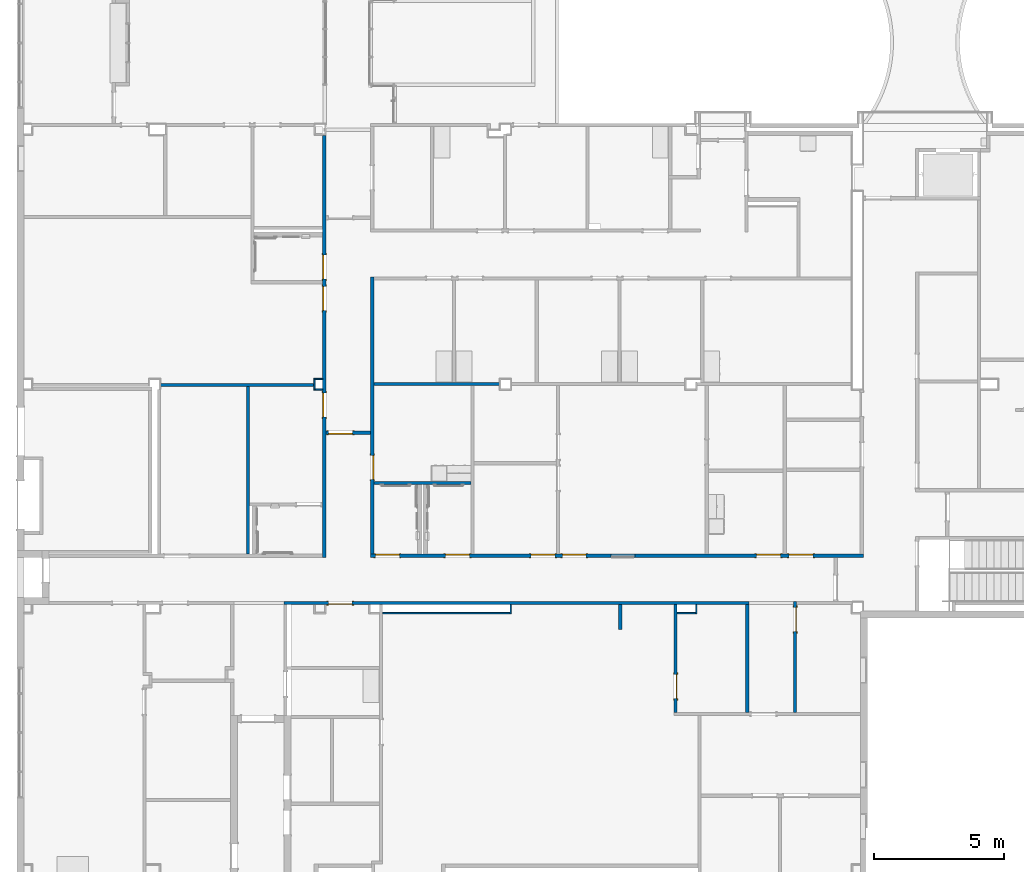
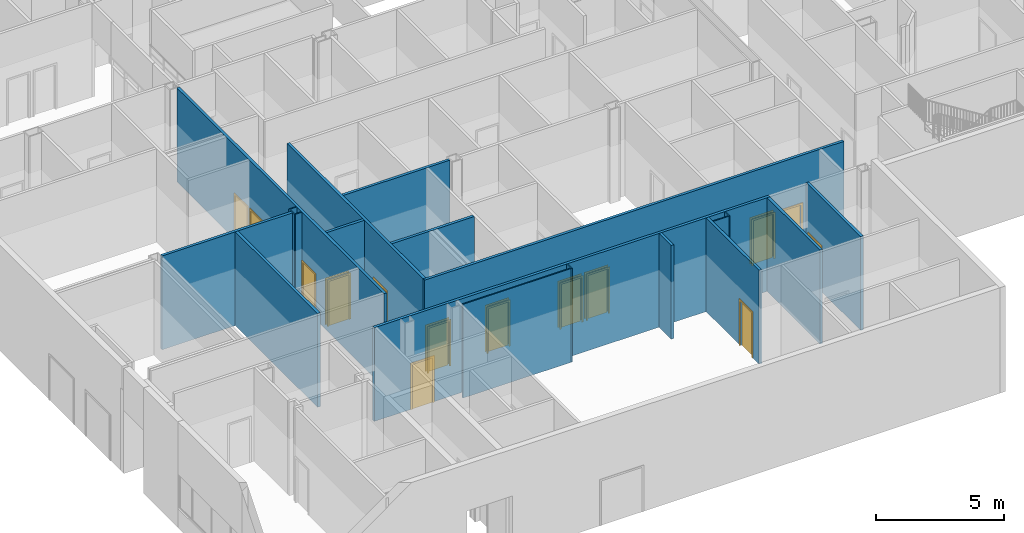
# One storey, part 21 of 87: 20 walls, 14 doors, 15 openings.
"""IFC2X3 building model written with IfcOpenShell, lengths in metres."""

from ifc_helpers import new_model, entity, si_unit, converted_unit, frame, frame_2d, origin, origin_2d_with_axis, place, context, project, spatial, polyline, rectangle, outline, extrude, source, transform, mapped, material, layer, layer_set, layer_usage, type_object, type_shapes, element, fill, save


model = new_model("IFC2X3")

# Units and contexts
model_context = context("Model", 3, precision=1e-09, world=origin())
plan_context = context("Plan", 3, precision=1e-09, world=origin())
ifc_project = project(units=[si_unit("LENGTHUNIT", "METRE"), si_unit("AREAUNIT", "SQUARE_METRE"), si_unit("VOLUMEUNIT", "CUBIC_METRE"), converted_unit("PLANEANGLEUNIT", "DEGREE", entity("IfcRatioMeasure", 0.01745329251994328), si_unit("PLANEANGLEUNIT", "RADIAN"), dimensions=[0, 0, 0, 0, 0, 0, 0]), si_unit("TIMEUNIT", "SECOND")], contexts=[model_context, plan_context])

# Site, building, storey
site_placement = place(None, origin())
site = spatial("IfcSite", under=ifc_project, at=site_placement, Name="Default", CompositionType="ELEMENT")
building_placement = place(site_placement, origin())
building = spatial("IfcBuilding", under=site, at=building_placement, CompositionType="ELEMENT")
storey_placement = place(building_placement, origin())
storey = spatial("IfcBuildingStorey", under=building, at=storey_placement, Name="First Floor", CompositionType="ELEMENT", Elevation=-3.531500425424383e-13)

# Wall, openings, doors
ifc_material_1 = material(Name="Plasterboard")
ifc_layer_1 = layer(ifc_material_1, 0.016)
ifc_material_2 = material(Name="Metal - Stud Layer")
ifc_layer_2 = layer(ifc_material_2, 0.092)
ifc_layer_3 = layer(ifc_material_1, 0.016)
ifc_layer_set_1 = layer_set([ifc_layer_1, ifc_layer_2, ifc_layer_3], Name="Basic Wall:Interior - Partition (92mm Stud)")
ifc_layer_usage_1 = layer_usage(ifc_layer_set_1, "AXIS2", "NEGATIVE", 0.062)
wall_1_placement = place(storey_placement, frame((-40.49200000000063, 28.14999999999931, 0.0), z_axis=(0.0, 0.0, 1.0), x_axis=(0.0, -1.0, 0.0)))
wall_1 = element("IfcWallStandardCase", 1, at=wall_1_placement, inside=storey, material=ifc_layer_usage_1, Name="Basic Wall:Interior - Partition (92mm Stud)", ObjectType="Basic Wall:Interior - Partition (92mm Stud)", context=model_context, shape_type="SweptSolid", body=[
    extrude(rectangle(XDim=16.1700000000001, YDim=0.1240000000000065, at=frame_2d((8.085000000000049, 0.0), x_axis=(-1.0, 0.0))), origin(), (0.0, 0.0, 1.0), 4.468000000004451),
])
opening_1_placement = place(wall_1_placement, frame((5.505999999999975, 0.06199999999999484, 0.0)))
opening_1 = element("IfcOpeningElement", 2, at=opening_1_placement, cuts=wall_1, Name="M_Single-Flush:0915 x 2134mm:0915 x 2134mm:1", ObjectType="Opening", context=model_context, shape_type="SweptSolid", body=[
    extrude(rectangle(XDim=0.9149999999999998, YDim=2.134, at=frame_2d((1.067, 0.4574999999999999), x_axis=(0.0, -1.0))), frame((0.0, 0.0, 0.0), z_axis=(0.0, -1.0, 0.0), x_axis=(0.0, 0.0, 1.0)), (0.0, 0.0, 1.0), 0.124),
])
opening_2_placement = place(wall_1_placement, frame((6.704999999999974, 0.06199999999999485, 0.0)))
opening_2 = element("IfcOpeningElement", 3, at=opening_2_placement, cuts=wall_1, Name="M_Single-Flush:0915 x 2134mm:0915 x 2134mm:1", ObjectType="Opening", context=model_context, shape_type="SweptSolid", body=[
    extrude(rectangle(XDim=0.9149999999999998, YDim=2.134, at=frame_2d((1.067, 0.4575), x_axis=(0.0, 1.0))), frame((0.0, 0.0, 0.0), z_axis=(0.0, -1.0, 0.0), x_axis=(0.0, 0.0, 1.0)), (0.0, 0.0, 1.0), 0.124),
])
opening_3_placement = place(wall_1_placement, frame((10.78499999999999, 0.06199999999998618, 0.0)))
opening_3 = element("IfcOpeningElement", 4, at=opening_3_placement, cuts=wall_1, Name="M_Single-Flush:0915 x 2134mm:0915 x 2134mm:1", ObjectType="Opening", context=model_context, shape_type="SweptSolid", body=[
    extrude(rectangle(XDim=0.9149999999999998, YDim=2.134, at=frame_2d((1.067, 0.4575), x_axis=(0.0, 1.0))), frame((0.0, 0.0, 0.0), z_axis=(0.0, -1.0, 0.0), x_axis=(0.0, 0.0, 1.0)), (0.0, 0.0, 1.0), 0.124),
])
door_style_1 = type_object("IfcDoorStyle", Name="0915 x 2134mm", ConstructionType="NOTDEFINED", OperationType="SINGLE_SWING_RIGHT", ParameterTakesPrecedence=False, Sizeable=False)
shared_shape_1 = source(origin(), model_context, "Body", "SweptSolid", [
    extrude(outline(polyline([(-0.5335, -1.123999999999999), (0.5334999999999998, -1.123999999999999), (0.5334999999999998, 1.086), (0.4574999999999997, 1.086), (0.4574999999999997, -1.048000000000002), (-0.4574999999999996, -1.048000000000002), (-0.4574999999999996, 1.086), (-0.5335, 1.086), (-0.5335, -1.123999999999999)])), frame((0.4575000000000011, 0.1239999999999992, 1.086), z_axis=(0.0, 1.0, 0.0), x_axis=(1.0, 0.0, 0.0)), (0.0, 0.0, 1.0), 0.02499999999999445),
    extrude(outline(polyline([(-1.123999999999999, -0.5334999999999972), (1.085999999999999, -0.5334999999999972), (1.085999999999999, -0.4575000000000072), (-1.048, -0.4575000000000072), (-1.048, 0.4575000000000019), (1.085999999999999, 0.4575000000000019), (1.085999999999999, 0.5335000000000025), (-1.123999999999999, 0.5335000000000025), (-1.123999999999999, -0.5334999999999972)])), frame((0.4575000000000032, -0.02500000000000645, 1.085999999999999), z_axis=(0.0, 1.0, 0.0), x_axis=(0.0, 0.0, -1.0)), (0.0, 0.0, 1.0), 0.02500000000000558),
    extrude(rectangle(XDim=0.051, YDim=0.9149999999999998, at=origin_2d_with_axis()), frame((0.4575000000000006, 0.09849999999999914, 0.0), z_axis=(0.0, 0.0, 1.0), x_axis=(0.0, 1.0, 0.0)), (0.0, 0.0, 1.0), 2.133999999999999),
])
type_shapes(door_style_1, [shared_shape_1])
door_1_placement = place(opening_2_placement, frame((0.0, 0.0, 0.0), z_axis=(0.0, 0.0, 1.0), x_axis=(-1.0, 0.0, 0.0)))
door_1 = element("IfcDoor", 5, at=door_1_placement, inside=storey, type_object=door_style_1, Name="M_Single-Flush:0915 x 2134mm:0915 x 2134mm", ObjectType="0915 x 2134mm", OverallHeight=2.134, OverallWidth=0.9149999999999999, context=model_context, shape_type="MappedRepresentation", body=[
    mapped(shared_shape_1, transform((0.0, 0.0, 0.0), scale=1.0)),
])
fill(opening_2, door_1)
door_2_placement = place(opening_3_placement, frame((0.0, 0.0, 0.0), z_axis=(0.0, 0.0, 1.0), x_axis=(-1.0, 0.0, 0.0)))
door_2 = element("IfcDoor", 6, at=door_2_placement, inside=storey, type_object=door_style_1, Name="M_Single-Flush:0915 x 2134mm:0915 x 2134mm", ObjectType="0915 x 2134mm", OverallHeight=2.134, OverallWidth=0.9149999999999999, context=model_context, shape_type="MappedRepresentation", body=[
    mapped(shared_shape_1, transform((0.0, 0.0, 0.0), scale=1.0)),
])
fill(opening_3, door_2)
door_style_2 = type_object("IfcDoorStyle", Name="0915 x 2134mm", ConstructionType="NOTDEFINED", OperationType="SINGLE_SWING_LEFT", ParameterTakesPrecedence=False, Sizeable=False)
shared_shape_2 = source(origin(), model_context, "Body", "SweptSolid", [
    extrude(outline(polyline([(-0.5335, -1.123999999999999), (0.5334999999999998, -1.123999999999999), (0.5334999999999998, 1.086), (0.4574999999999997, 1.086), (0.4574999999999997, -1.048000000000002), (-0.4574999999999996, -1.048000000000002), (-0.4574999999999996, 1.086), (-0.5335, 1.086), (-0.5335, -1.123999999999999)])), frame((0.4575000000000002, 0.1489999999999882, 1.086), z_axis=(0.0, -1.0, 0.0), x_axis=(-1.0, 0.0, 0.0)), (0.0, 0.0, 1.0), 0.02499999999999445),
    extrude(outline(polyline([(-1.123999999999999, -0.5334999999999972), (1.085999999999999, -0.5334999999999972), (1.085999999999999, -0.4575000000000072), (-1.048, -0.4575000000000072), (-1.048, 0.4575000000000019), (1.085999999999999, 0.4575000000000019), (1.085999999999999, 0.5335000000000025), (-1.123999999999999, 0.5335000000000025), (-1.123999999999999, -0.5334999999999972)])), frame((0.4574999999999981, 0.0, 1.085999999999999), z_axis=(0.0, -1.0, 0.0), x_axis=(0.0, 0.0, -1.0)), (0.0, 0.0, 1.0), 0.02500000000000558),
    extrude(rectangle(XDim=0.9149999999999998, YDim=0.051, at=origin_2d_with_axis()), frame((0.4575000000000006, 0.09849999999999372, 0.0)), (0.0, 0.0, 1.0), 2.133999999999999),
])
type_shapes(door_style_2, [shared_shape_2])
door_3_placement = place(opening_1_placement, frame((0.0, 0.0, 0.0), z_axis=(0.0, 0.0, 1.0), x_axis=(-1.0, 0.0, 0.0)))
door_3 = element("IfcDoor", 7, at=door_3_placement, inside=storey, type_object=door_style_2, Name="M_Single-Flush:0915 x 2134mm:0915 x 2134mm", ObjectType="0915 x 2134mm", OverallHeight=2.134, OverallWidth=0.9149999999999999, context=model_context, shape_type="MappedRepresentation", body=[
    mapped(shared_shape_2, transform((0.0, 0.0, 0.0), scale=1.0)),
])
fill(opening_1, door_3)

# Walls
ifc_layer_usage_2 = layer_usage(ifc_layer_set_1, "AXIS2", "NEGATIVE", 0.062)
wall_2_placement = place(storey_placement, frame((-46.77000000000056, 18.58799999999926, 0.0)))
element("IfcWallStandardCase", 8, at=wall_2_placement, inside=storey, material=ifc_layer_usage_2, Name="Basic Wall:Interior - Partition (92mm Stud)", ObjectType="Basic Wall:Interior - Partition (92mm Stud)", context=model_context, shape_type="SweptSolid", body=[
    extrude(rectangle(XDim=5.879999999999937, YDim=0.1240000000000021, at=frame_2d((2.939999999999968, 0.0), x_axis=(-1.0, 0.0))), origin(), (0.0, 0.0, 1.0), 4.468000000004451),
])
ifc_layer_4 = layer(ifc_material_2, 0.038)
ifc_layer_5 = layer(ifc_material_1, 0.016)
ifc_layer_set_2 = layer_set([ifc_layer_4, ifc_layer_5], Name="Basic Wall:Interior - Furring (38 mm Stud)")
ifc_layer_usage_3 = layer_usage(ifc_layer_set_2, "AXIS2", "POSITIVE", -0.027)
wall_3_placement = place(storey_placement, frame((-40.86300000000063, 18.37999999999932, 0.0), z_axis=(0.0, 0.0, 1.0), x_axis=(0.0, 1.0, 0.0)))
element("IfcWallStandardCase", 9, at=wall_3_placement, inside=storey, material=ifc_layer_usage_3, Name="Basic Wall:Interior - Furring (38 mm Stud)", ObjectType="Basic Wall:Interior - Furring (38 mm Stud)", context=model_context, shape_type="SweptSolid", body=[
    extrude(rectangle(XDim=0.4599999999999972, YDim=0.05400000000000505, at=frame_2d((0.2299999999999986, 0.0), x_axis=(-1.0, 0.0))), origin(), (0.0, 0.0, 1.0), 4.468000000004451),
])
ifc_layer_usage_4 = layer_usage(ifc_layer_set_2, "AXIS2", "POSITIVE", -0.027)
wall_4_placement = place(storey_placement, frame((-40.83600000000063, 18.81299999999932, 0.0)))
element("IfcWallStandardCase", 10, at=wall_4_placement, inside=storey, material=ifc_layer_usage_4, Name="Basic Wall:Interior - Furring (38 mm Stud)", ObjectType="Basic Wall:Interior - Furring (38 mm Stud)", context=model_context, shape_type="SweptSolid", body=[
    extrude(rectangle(XDim=0.2819999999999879, YDim=0.05400000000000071, at=frame_2d((0.140999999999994, 0.0), x_axis=(-1.0, 0.0))), origin(), (0.0, 0.0, 1.0), 4.46800000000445),
])
ifc_layer_usage_5 = layer_usage(ifc_layer_set_2, "AXIS2", "POSITIVE", -0.027)
wall_5_placement = place(storey_placement, frame((-40.55400000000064, 18.40699999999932, 0.0), z_axis=(0.0, 0.0, 1.0), x_axis=(-1.0, 0.0, 0.0)))
element("IfcWallStandardCase", 11, at=wall_5_placement, inside=storey, material=ifc_layer_usage_5, Name="Basic Wall:Interior - Furring (38 mm Stud)", ObjectType="Basic Wall:Interior - Furring (38 mm Stud)", context=model_context, shape_type="SweptSolid", body=[
    extrude(rectangle(XDim=0.2819999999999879, YDim=0.05400000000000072, at=frame_2d((0.1409999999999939, 0.0), x_axis=(-1.0, 0.0))), origin(), (0.0, 0.0, 1.0), 4.46800000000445),
])
ifc_layer_usage_6 = layer_usage(ifc_layer_set_1, "AXIS2", "NEGATIVE", 0.062)
wall_6_placement = place(storey_placement, frame((-43.4160000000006, 12.10399999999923, 0.0), z_axis=(0.0, 0.0, 1.0), x_axis=(0.0, 1.0, 0.0)))
element("IfcWallStandardCase", 12, at=wall_6_placement, inside=storey, material=ifc_layer_usage_6, Name="Basic Wall:Interior - Partition (92mm Stud)", ObjectType="Basic Wall:Interior - Partition (92mm Stud)", context=model_context, shape_type="SweptSolid", body=[
    extrude(rectangle(XDim=6.422000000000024, YDim=0.1240000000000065, at=frame_2d((3.211000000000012, 0.0), x_axis=(-1.0, 0.0))), origin(), (0.0, 0.0, 1.0), 4.46800000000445),
])

# Wall, openings, doors
ifc_layer_usage_7 = layer_usage(ifc_layer_set_1, "AXIS2", "NEGATIVE", 0.062)
wall_7_placement = place(storey_placement, frame((-19.83000000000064, 12.04199999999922, 0.0), z_axis=(0.0, 0.0, 1.0), x_axis=(-1.0, 0.0, 0.0)))
wall_7 = element("IfcWallStandardCase", 13, at=wall_7_placement, inside=storey, material=ifc_layer_usage_7, Name="Basic Wall:Interior - Partition (92mm Stud)", ObjectType="Basic Wall:Interior - Partition (92mm Stud)", context=model_context, shape_type="SweptSolid", body=[
    extrude(rectangle(XDim=18.89000000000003, YDim=0.1240000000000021, at=frame_2d((9.445000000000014, 0.0), x_axis=(-1.0, 0.0))), origin(), (0.0, 0.0, 1.0), 4.46800000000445),
])
opening_4_placement = place(wall_7_placement, origin())
element("IfcOpeningElement", 14, at=opening_4_placement, cuts=wall_7, ObjectType="Opening", context=model_context, shape_type="SweptSolid", body=[
    extrude(rectangle(XDim=0.9999999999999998, YDim=0.9150000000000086, at=frame_2d((0.0, 0.0), x_axis=(0.0, 1.0))), frame((9.221299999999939, -0.2143999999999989, 1.5), z_axis=(0.0, 1.0, 0.0), x_axis=(-1.0, 0.0, 0.0)), (0.0, 0.0, 1.0), 0.4288),
])
opening_5_placement = place(wall_7_placement, frame((2.856, 0.06199999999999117, 0.0)))
opening_5 = element("IfcOpeningElement", 15, at=opening_5_placement, cuts=wall_7, Name="M_Single-Flush:0915 x 2134mm:0915 x 2134mm:1", ObjectType="Opening", context=model_context, shape_type="SweptSolid", body=[
    extrude(rectangle(XDim=0.9149999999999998, YDim=2.134, at=frame_2d((1.067, 0.4574999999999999), x_axis=(0.0, -1.0))), frame((0.0, 0.0, 0.0), z_axis=(0.0, -1.0, 0.0), x_axis=(0.0, 0.0, 1.0)), (0.0, 0.0, 1.0), 0.124),
])
opening_6_placement = place(wall_7_placement, frame((4.094999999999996, 0.06199999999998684, 0.0)))
opening_6 = element("IfcOpeningElement", 16, at=opening_6_placement, cuts=wall_7, Name="M_Single-Flush:0915 x 2134mm:0915 x 2134mm:1", ObjectType="Opening", context=model_context, shape_type="SweptSolid", body=[
    extrude(rectangle(XDim=0.9149999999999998, YDim=2.134, at=frame_2d((1.067, 0.4575), x_axis=(0.0, 1.0))), frame((0.0, 0.0, 0.0), z_axis=(0.0, -1.0, 0.0), x_axis=(0.0, 0.0, 1.0)), (0.0, 0.0, 1.0), 0.124),
])
opening_7_placement = place(wall_7_placement, frame((18.70600000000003, 0.06199999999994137, 0.0)))
opening_7 = element("IfcOpeningElement", 17, at=opening_7_placement, cuts=wall_7, Name="M_Single-Flush:0915 x 2134mm:0915 x 2134mm:1", ObjectType="Opening", context=model_context, shape_type="SweptSolid", body=[
    extrude(rectangle(XDim=0.9149999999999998, YDim=2.134, at=frame_2d((1.067, 0.4574999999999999), x_axis=(0.0, -1.0))), frame((0.0, 0.0, 0.0), z_axis=(0.0, -1.0, 0.0), x_axis=(0.0, 0.0, 1.0)), (0.0, 0.0, 1.0), 0.124),
])
opening_8_placement = place(wall_7_placement, frame((16.019, 0.06199999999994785, 0.0)))
opening_8 = element("IfcOpeningElement", 18, at=opening_8_placement, cuts=wall_7, Name="M_Single-Flush:0915 x 2134mm:0915 x 2134mm:1", ObjectType="Opening", context=model_context, shape_type="SweptSolid", body=[
    extrude(rectangle(XDim=0.9149999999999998, YDim=2.134, at=frame_2d((1.067, 0.4575), x_axis=(0.0, 1.0))), frame((0.0, 0.0, 0.0), z_axis=(0.0, -1.0, 0.0), x_axis=(0.0, 0.0, 1.0)), (0.0, 0.0, 1.0), 0.124),
])
opening_9_placement = place(wall_7_placement, frame((12.73899999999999, 0.06199999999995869, 0.0)))
opening_9 = element("IfcOpeningElement", 19, at=opening_9_placement, cuts=wall_7, Name="M_Single-Flush:0915 x 2134mm:0915 x 2134mm:1", ObjectType="Opening", context=model_context, shape_type="SweptSolid", body=[
    extrude(rectangle(XDim=0.9149999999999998, YDim=2.134, at=frame_2d((1.067, 0.4575), x_axis=(0.0, 1.0))), frame((0.0, 0.0, 0.0), z_axis=(0.0, -1.0, 0.0), x_axis=(0.0, 0.0, 1.0)), (0.0, 0.0, 1.0), 0.124),
])
opening_10_placement = place(wall_7_placement, frame((11.54, 0.06199999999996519, 0.0)))
opening_10 = element("IfcOpeningElement", 20, at=opening_10_placement, cuts=wall_7, Name="M_Single-Flush:0915 x 2134mm:0915 x 2134mm:1", ObjectType="Opening", context=model_context, shape_type="SweptSolid", body=[
    extrude(rectangle(XDim=0.9149999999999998, YDim=2.134, at=frame_2d((1.067, 0.4574999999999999), x_axis=(0.0, -1.0))), frame((0.0, 0.0, 0.0), z_axis=(0.0, -1.0, 0.0), x_axis=(0.0, 0.0, 1.0)), (0.0, 0.0, 1.0), 0.124),
])
door_4_placement = place(opening_6_placement, frame((0.0, 0.0, 0.0), z_axis=(0.0, 0.0, 1.0), x_axis=(-1.0, 0.0, 0.0)))
door_4 = element("IfcDoor", 21, at=door_4_placement, inside=storey, type_object=door_style_1, Name="M_Single-Flush:0915 x 2134mm:0915 x 2134mm", ObjectType="0915 x 2134mm", OverallHeight=2.134, OverallWidth=0.9149999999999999, context=model_context, shape_type="MappedRepresentation", body=[
    mapped(shared_shape_1, transform((0.0, 0.0, 0.0), scale=1.0)),
])
fill(opening_6, door_4)
door_5_placement = place(opening_8_placement, frame((0.0, 0.0, 0.0), z_axis=(0.0, 0.0, 1.0), x_axis=(-1.0, 0.0, 0.0)))
door_5 = element("IfcDoor", 22, at=door_5_placement, inside=storey, type_object=door_style_1, Name="M_Single-Flush:0915 x 2134mm:0915 x 2134mm", ObjectType="0915 x 2134mm", OverallHeight=2.134, OverallWidth=0.9149999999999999, context=model_context, shape_type="MappedRepresentation", body=[
    mapped(shared_shape_1, transform((0.0, 0.0, 0.0), scale=1.0)),
])
fill(opening_8, door_5)
door_6_placement = place(opening_9_placement, frame((0.0, 0.0, 0.0), z_axis=(0.0, 0.0, 1.0), x_axis=(-1.0, 0.0, 0.0)))
door_6 = element("IfcDoor", 23, at=door_6_placement, inside=storey, type_object=door_style_1, Name="M_Single-Flush:0915 x 2134mm:0915 x 2134mm", ObjectType="0915 x 2134mm", OverallHeight=2.134, OverallWidth=0.9149999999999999, context=model_context, shape_type="MappedRepresentation", body=[
    mapped(shared_shape_1, transform((0.0, 0.0, 0.0), scale=1.0)),
])
fill(opening_9, door_6)
door_7_placement = place(opening_5_placement, frame((0.0, 0.0, 0.0), z_axis=(0.0, 0.0, 1.0), x_axis=(-1.0, 0.0, 0.0)))
door_7 = element("IfcDoor", 24, at=door_7_placement, inside=storey, type_object=door_style_2, Name="M_Single-Flush:0915 x 2134mm:0915 x 2134mm", ObjectType="0915 x 2134mm", OverallHeight=2.134, OverallWidth=0.9149999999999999, context=model_context, shape_type="MappedRepresentation", body=[
    mapped(shared_shape_2, transform((0.0, 0.0, 0.0), scale=1.0)),
])
fill(opening_5, door_7)
door_8_placement = place(opening_7_placement, frame((0.0, 0.0, 0.0), z_axis=(0.0, 0.0, 1.0), x_axis=(-1.0, 0.0, 0.0)))
door_8 = element("IfcDoor", 25, at=door_8_placement, inside=storey, type_object=door_style_2, Name="M_Single-Flush:0915 x 2134mm:0915 x 2134mm", ObjectType="0915 x 2134mm", OverallHeight=2.134, OverallWidth=0.9149999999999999, context=model_context, shape_type="MappedRepresentation", body=[
    mapped(shared_shape_2, transform((0.0, 0.0, 0.0), scale=1.0)),
])
fill(opening_7, door_8)
door_9_placement = place(opening_10_placement, frame((0.0, 0.0, 0.0), z_axis=(0.0, 0.0, 1.0), x_axis=(-1.0, 0.0, 0.0)))
door_9 = element("IfcDoor", 26, at=door_9_placement, inside=storey, type_object=door_style_2, Name="M_Single-Flush:0915 x 2134mm:0915 x 2134mm", ObjectType="0915 x 2134mm", OverallHeight=2.134, OverallWidth=0.9149999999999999, context=model_context, shape_type="MappedRepresentation", body=[
    mapped(shared_shape_2, transform((0.0, 0.0, 0.0), scale=1.0)),
])
fill(opening_10, door_9)

# Wall, opening, door
ifc_layer_usage_8 = layer_usage(ifc_layer_set_1, "AXIS2", "NEGATIVE", 0.062)
wall_8_placement = place(storey_placement, frame((-38.65800000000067, 12.10399999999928, 0.0), z_axis=(0.0, 0.0, 1.0), x_axis=(0.0, 1.0, 0.0)))
wall_8 = element("IfcWallStandardCase", 27, at=wall_8_placement, inside=storey, material=ifc_layer_usage_8, Name="Basic Wall:Interior - Partition (92mm Stud)", ObjectType="Basic Wall:Interior - Partition (92mm Stud)", context=model_context, shape_type="SweptSolid", body=[
    extrude(rectangle(XDim=10.62600000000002, YDim=0.1239999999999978, at=frame_2d((5.313000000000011, 0.0), x_axis=(-1.0, 0.0))), origin(), (0.0, 0.0, 1.0), 4.46800000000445),
])
opening_11_placement = place(wall_8_placement, frame((3.780999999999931, 0.0619999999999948, 0.0)))
opening_11 = element("IfcOpeningElement", 28, at=opening_11_placement, cuts=wall_8, Name="M_Single-Flush:0915 x 2134mm:0915 x 2134mm:1", ObjectType="Opening", context=model_context, shape_type="SweptSolid", body=[
    extrude(rectangle(XDim=0.9149999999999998, YDim=2.134, at=frame_2d((1.067, 0.4575), x_axis=(0.0, 1.0))), frame((0.0, 0.0, 0.0), z_axis=(0.0, -1.0, 0.0), x_axis=(0.0, 0.0, 1.0)), (0.0, 0.0, 1.0), 0.124),
])
door_10_placement = place(opening_11_placement, frame((0.0, 0.0, 0.0), z_axis=(0.0, 0.0, 1.0), x_axis=(-1.0, 0.0, 0.0)))
door_10 = element("IfcDoor", 29, at=door_10_placement, inside=storey, type_object=door_style_1, Name="M_Single-Flush:0915 x 2134mm:0915 x 2134mm", ObjectType="0915 x 2134mm", OverallHeight=2.134, OverallWidth=0.9149999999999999, context=model_context, shape_type="MappedRepresentation", body=[
    mapped(shared_shape_1, transform((0.0, 0.0, 0.0), scale=1.0)),
])
fill(opening_11, door_10)

# Walls
ifc_layer_usage_9 = layer_usage(ifc_layer_set_1, "AXIS2", "NEGATIVE", 0.062)
wall_9_placement = place(storey_placement, frame((-33.78000000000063, 18.62199999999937, 0.0), z_axis=(0.0, 0.0, 1.0), x_axis=(-1.0, 0.0, 0.0)))
element("IfcWallStandardCase", 30, at=wall_9_placement, inside=storey, material=ifc_layer_usage_9, Name="Basic Wall:Interior - Partition (92mm Stud)", ObjectType="Basic Wall:Interior - Partition (92mm Stud)", context=model_context, shape_type="SweptSolid", body=[
    extrude(rectangle(XDim=4.816000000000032, YDim=0.1240000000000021, at=frame_2d((2.408000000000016, 0.0), x_axis=(-1.0, 0.0))), origin(), (0.0, 0.0, 1.0), 4.468000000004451),
])
ifc_layer_usage_10 = layer_usage(ifc_layer_set_1, "AXIS2", "NEGATIVE", 0.062)
wall_10_placement = place(storey_placement, frame((-38.59600000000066, 14.82799999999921, 0.0)))
element("IfcWallStandardCase", 31, at=wall_10_placement, inside=storey, material=ifc_layer_usage_10, Name="Basic Wall:Interior - Partition (92mm Stud)", ObjectType="Basic Wall:Interior - Partition (92mm Stud)", context=model_context, shape_type="SweptSolid", body=[
    extrude(rectangle(XDim=3.722000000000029, YDim=0.1240000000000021, at=frame_2d((1.861000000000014, 0.0), x_axis=(-1.0, 0.0))), origin(), (0.0, 0.0, 1.0), 4.46800000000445),
])

# Wall, opening, door
ifc_layer_usage_11 = layer_usage(ifc_layer_set_1, "AXIS2", "NEGATIVE", 0.062)
wall_11_placement = place(storey_placement, frame((-27.02840000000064, 6.033999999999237, 0.0), z_axis=(0.0, 0.0, 1.0), x_axis=(0.0, 1.0, 0.0)))
wall_11 = element("IfcWallStandardCase", 32, at=wall_11_placement, inside=storey, material=ifc_layer_usage_11, Name="Basic Wall:Interior - Partition (92mm Stud)", ObjectType="Basic Wall:Interior - Partition (92mm Stud)", context=model_context, shape_type="SweptSolid", body=[
    extrude(rectangle(XDim=4.128999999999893, YDim=0.1239999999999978, at=frame_2d((2.064499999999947, 0.0), x_axis=(-1.0, 0.0))), origin(), (0.0, 0.0, 1.0), 4.46800000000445),
])
opening_12_placement = place(wall_11_placement, frame((1.454999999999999, 0.0619999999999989, 0.0)))
opening_12 = element("IfcOpeningElement", 33, at=opening_12_placement, cuts=wall_11, Name="M_Single-Flush:0915 x 2134mm:0915 x 2134mm:1", ObjectType="Opening", context=model_context, shape_type="SweptSolid", body=[
    extrude(rectangle(XDim=0.9149999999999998, YDim=2.134, at=frame_2d((1.067, 0.4575), x_axis=(0.0, 1.0))), frame((0.0, 0.0, 0.0), z_axis=(0.0, -1.0, 0.0), x_axis=(0.0, 0.0, 1.0)), (0.0, 0.0, 1.0), 0.124),
])
door_11_placement = place(opening_12_placement, frame((0.0, 0.0, 0.0), z_axis=(0.0, 0.0, 1.0), x_axis=(-1.0, 0.0, 0.0)))
door_11 = element("IfcDoor", 34, at=door_11_placement, inside=storey, type_object=door_style_1, Name="M_Single-Flush:0915 x 2134mm:0915 x 2134mm", ObjectType="0915 x 2134mm", OverallHeight=2.134, OverallWidth=0.9149999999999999, context=model_context, shape_type="MappedRepresentation", body=[
    mapped(shared_shape_1, transform((0.0, 0.0, 0.0), scale=1.0)),
])
fill(opening_12, door_11)

# Wall
ifc_layer_usage_12 = layer_usage(ifc_layer_set_1, "AXIS2", "NEGATIVE", 0.062)
wall_12_placement = place(storey_placement, frame((-24.28200000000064, 10.16299999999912, 0.0), z_axis=(0.0, 0.0, 1.0), x_axis=(0.0, -1.0, 0.0)))
element("IfcWallStandardCase", 35, at=wall_12_placement, inside=storey, material=ifc_layer_usage_12, Name="Basic Wall:Interior - Partition (92mm Stud)", ObjectType="Basic Wall:Interior - Partition (92mm Stud)", context=model_context, shape_type="SweptSolid", body=[
    extrude(rectangle(XDim=4.128999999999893, YDim=0.1239999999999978, at=frame_2d((2.064499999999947, 0.0), x_axis=(-1.0, 0.0))), origin(), (0.0, 0.0, 1.0), 4.46800000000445),
])

# Wall, opening, door
ifc_layer_usage_13 = layer_usage(ifc_layer_set_1, "AXIS2", "NEGATIVE", 0.062)
wall_13_placement = place(storey_placement, frame((-42.04000000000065, 10.22499999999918, 0.0)))
wall_13 = element("IfcWallStandardCase", 36, at=wall_13_placement, inside=storey, material=ifc_layer_usage_13, Name="Basic Wall:Interior - Partition (92mm Stud)", ObjectType="Basic Wall:Interior - Partition (92mm Stud)", context=model_context, shape_type="SweptSolid", body=[
    extrude(rectangle(XDim=17.82000000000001, YDim=0.1240000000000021, at=frame_2d((8.910000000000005, 0.0), x_axis=(-1.0, 0.0))), origin(), (0.0, 0.0, 1.0), 4.468000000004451),
])
opening_13_placement = place(wall_13_placement, frame((2.614599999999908, 0.06199999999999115, 0.0)))
opening_13 = element("IfcOpeningElement", 37, at=opening_13_placement, cuts=wall_13, Name="M_Single-Flush:0915 x 2134mm:0915 x 2134mm:1", ObjectType="Opening", context=model_context, shape_type="SweptSolid", body=[
    extrude(rectangle(XDim=0.9149999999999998, YDim=2.134, at=frame_2d((1.067, 0.4575), x_axis=(0.0, 1.0))), frame((0.0, 0.0, 0.0), z_axis=(0.0, -1.0, 0.0), x_axis=(0.0, 0.0, 1.0)), (0.0, 0.0, 1.0), 0.124),
])
door_12_placement = place(opening_13_placement, frame((0.0, 0.0, 0.0), z_axis=(0.0, 0.0, 1.0), x_axis=(-1.0, 0.0, 0.0)))
door_12 = element("IfcDoor", 38, at=door_12_placement, inside=storey, type_object=door_style_1, Name="M_Single-Flush:0915 x 2134mm:0915 x 2134mm", ObjectType="0915 x 2134mm", OverallHeight=2.134, OverallWidth=0.9149999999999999, context=model_context, shape_type="MappedRepresentation", body=[
    mapped(shared_shape_1, transform((0.0, 0.0, 0.0), scale=1.0)),
])
fill(opening_13, door_12)

# Walls
ifc_layer_usage_14 = layer_usage(ifc_layer_set_2, "AXIS2", "POSITIVE", -0.027)
wall_14_placement = place(storey_placement, frame((-33.34700000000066, 10.16299999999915, 0.0), z_axis=(0.0, 0.0, 1.0), x_axis=(0.0, -1.0, 0.0)))
element("IfcWallStandardCase", 39, at=wall_14_placement, inside=storey, material=ifc_layer_usage_14, Name="Basic Wall:Interior - Furring (38 mm Stud)", ObjectType="Basic Wall:Interior - Furring (38 mm Stud)", context=model_context, shape_type="SweptSolid", body=[
    extrude(rectangle(XDim=0.3529999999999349, YDim=0.05399999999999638, at=frame_2d((0.1764999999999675, 0.0), x_axis=(-1.0, 0.0))), origin(), (0.0, 0.0, 1.0), 4.46800000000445),
])
ifc_layer_usage_15 = layer_usage(ifc_layer_set_2, "AXIS2", "POSITIVE", -0.027)
wall_15_placement = place(storey_placement, frame((-33.37400000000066, 9.836999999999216, 0.0), z_axis=(0.0, 0.0, 1.0), x_axis=(-1.0, 0.0, 0.0)))
element("IfcWallStandardCase", 40, at=wall_15_placement, inside=storey, material=ifc_layer_usage_15, Name="Basic Wall:Interior - Furring (38 mm Stud)", ObjectType="Basic Wall:Interior - Furring (38 mm Stud)", context=model_context, shape_type="SweptSolid", body=[
    extrude(rectangle(XDim=4.881399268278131, YDim=0.05400000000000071, at=frame_2d((2.440699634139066, 0.0), x_axis=(-1.0, 0.0))), origin(), (0.0, 0.0, 1.0), 4.46800000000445),
])
ifc_layer_usage_16 = layer_usage(ifc_layer_set_1, "AXIS2", "NEGATIVE", 0.062)
wall_16_placement = place(storey_placement, frame((-29.15240000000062, 10.16299999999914, 0.0), z_axis=(0.0, 0.0, 1.0), x_axis=(0.0, -1.0, 0.0)))
element("IfcWallStandardCase", 41, at=wall_16_placement, inside=storey, material=ifc_layer_usage_16, Name="Basic Wall:Interior - Partition (92mm Stud)", ObjectType="Basic Wall:Interior - Partition (92mm Stud)", context=model_context, shape_type="SweptSolid", body=[
    extrude(rectangle(XDim=0.9529999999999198, YDim=0.1239999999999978, at=frame_2d((0.4764999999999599, 0.0), x_axis=(-1.0, 0.0))), origin(), (0.0, 0.0, 1.0), 4.46800000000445),
])
ifc_layer_usage_17 = layer_usage(ifc_layer_set_2, "AXIS2", "POSITIVE", -0.027)
wall_17_placement = place(storey_placement, frame((-26.23700000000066, 10.16299999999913, 0.0), z_axis=(0.0, 0.0, 1.0), x_axis=(0.0, -1.0, 0.0)))
element("IfcWallStandardCase", 42, at=wall_17_placement, inside=storey, material=ifc_layer_usage_17, Name="Basic Wall:Interior - Furring (38 mm Stud)", ObjectType="Basic Wall:Interior - Furring (38 mm Stud)", context=model_context, shape_type="SweptSolid", body=[
    extrude(rectangle(XDim=0.3529999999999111, YDim=0.05399999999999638, at=frame_2d((0.1764999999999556, 0.0), x_axis=(-1.0, 0.0))), origin(), (0.0, 0.0, 1.0), 4.46800000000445),
])
ifc_layer_usage_18 = layer_usage(ifc_layer_set_2, "AXIS2", "POSITIVE", -0.027)
wall_18_placement = place(storey_placement, frame((-26.26400000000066, 9.836999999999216, 0.0), z_axis=(0.0, 0.0, 1.0), x_axis=(-1.0, 0.0, 0.0)))
element("IfcWallStandardCase", 43, at=wall_18_placement, inside=storey, material=ifc_layer_usage_18, Name="Basic Wall:Interior - Furring (38 mm Stud)", ObjectType="Basic Wall:Interior - Furring (38 mm Stud)", context=model_context, shape_type="SweptSolid", body=[
    extrude(rectangle(XDim=0.7023999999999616, YDim=0.05400000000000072, at=frame_2d((0.3511999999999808, 0.0), x_axis=(-1.0, 0.0))), origin(), (0.0, 0.0, 1.0), 4.46800000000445),
])

# Wall, opening, door
ifc_layer_usage_19 = layer_usage(ifc_layer_set_1, "AXIS2", "NEGATIVE", 0.062)
wall_19_placement = place(storey_placement, frame((-22.44800000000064, 6.033999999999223, 0.0), z_axis=(0.0, 0.0, 1.0), x_axis=(0.0, 1.0, 0.0)))
wall_19 = element("IfcWallStandardCase", 44, at=wall_19_placement, inside=storey, material=ifc_layer_usage_19, Name="Basic Wall:Interior - Partition (92mm Stud)", ObjectType="Basic Wall:Interior - Partition (92mm Stud)", context=model_context, shape_type="SweptSolid", body=[
    extrude(rectangle(XDim=4.25299999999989, YDim=0.1239999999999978, at=frame_2d((2.126499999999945, 0.0), x_axis=(-1.0, 0.0))), origin(), (0.0, 0.0, 1.0), 4.46800000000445),
])
opening_14_placement = place(wall_19_placement, frame((4.011999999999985, 0.06199999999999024, 0.0)))
opening_14 = element("IfcOpeningElement", 45, at=opening_14_placement, cuts=wall_19, Name="M_Single-Flush:0915 x 2134mm:0915 x 2134mm:1", ObjectType="Opening", context=model_context, shape_type="SweptSolid", body=[
    extrude(rectangle(XDim=0.9150000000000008, YDim=2.134, at=frame_2d((1.067, 0.4575000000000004), x_axis=(0.0, -1.0))), frame((0.0, 0.0, 0.0), z_axis=(0.0, -1.0, 0.0), x_axis=(0.0, 0.0, 1.0)), (0.0, 0.0, 1.0), 0.124),
])
door_13_placement = place(opening_14_placement, frame((0.0, 0.0, 0.0), z_axis=(0.0, 0.0, 1.0), x_axis=(-1.0, 0.0, 0.0)))
door_13 = element("IfcDoor", 46, at=door_13_placement, inside=storey, type_object=door_style_2, Name="M_Single-Flush:0915 x 2134mm:0915 x 2134mm", ObjectType="0915 x 2134mm", OverallHeight=2.134, OverallWidth=0.915000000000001, context=model_context, shape_type="MappedRepresentation", body=[
    mapped(shared_shape_2, transform((0.0, 0.0, 0.0), scale=1.0)),
])
fill(opening_14, door_13)

ifc_layer_usage_20 = layer_usage(ifc_layer_set_1, "AXIS2", "NEGATIVE", 0.062)
wall_20_placement = place(storey_placement, frame((-38.72000000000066, 16.75199999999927, 0.0), z_axis=(0.0, 0.0, 1.0), x_axis=(-1.0, 0.0, 0.0)))
wall_20 = element("IfcWallStandardCase", 47, at=wall_20_placement, inside=storey, material=ifc_layer_usage_20, Name="Basic Wall:Interior - Partition (92mm Stud)", ObjectType="Basic Wall:Interior - Partition (92mm Stud)", context=model_context, shape_type="SweptSolid", body=[
    extrude(rectangle(XDim=1.709999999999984, YDim=0.1240000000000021, at=frame_2d((0.8549999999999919, 0.0), x_axis=(-1.0, 0.0))), origin(), (0.0, 0.0, 1.0), 4.46800000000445),
])
opening_15_placement = place(wall_20_placement, frame((0.6949999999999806, -0.06200000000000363, 0.0)))
opening_15 = element("IfcOpeningElement", 48, at=opening_15_placement, cuts=wall_20, Name="M_Single-Flush:0915 x 2134mm:0915 x 2134mm:1", ObjectType="Opening", context=model_context, shape_type="SweptSolid", body=[
    extrude(rectangle(XDim=0.9149999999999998, YDim=2.134, at=frame_2d((1.067, 0.4575), x_axis=(0.0, 1.0))), frame((0.0, 0.0, 0.0), z_axis=(0.0, 1.0, 0.0), x_axis=(0.0, 0.0, 1.0)), (0.0, 0.0, 1.0), 0.124),
])
door_14_placement = place(opening_15_placement, origin())
door_14 = element("IfcDoor", 49, at=door_14_placement, inside=storey, type_object=door_style_1, Name="M_Single-Flush:0915 x 2134mm:0915 x 2134mm", ObjectType="0915 x 2134mm", OverallHeight=2.134, OverallWidth=0.9149999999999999, context=model_context, shape_type="MappedRepresentation", body=[
    mapped(shared_shape_1, transform((0.0, 0.0, 0.0), scale=1.0)),
])
fill(opening_15, door_14)

save(model, "model.ifc")
